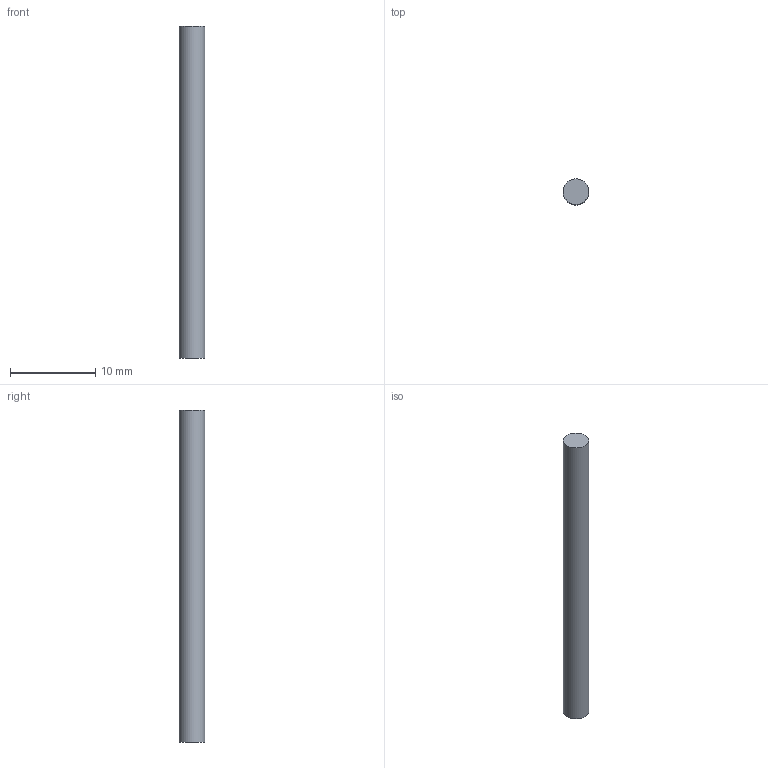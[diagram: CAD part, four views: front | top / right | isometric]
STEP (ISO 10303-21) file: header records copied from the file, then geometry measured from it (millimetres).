
FILE_DESCRIPTION(('FreeCAD Model'),'2;1');
FILE_NAME('Open CASCADE Shape Model','2026-10-30T14:44:59',('FreeCAD'),( 'FreeCAD'),'Open CASCADE STEP processor 7.8','FreeCAD','Unknown');
FILE_SCHEMA(('AUTOMOTIVE_DESIGN { 1 0 10303 214 1 1 1 1 }'));
Length unit declared in the file: millimetre
Products named in the file (1): Open CASCADE STEP translator 7.8 8
Bounding box: 3 x 3 x 38.85 mm (x, y, z)
Volume: 274.6 mm3; surface area: 380.3 mm2
Topology: 1 solids, 1 shells, 3 faces, 3 edges, 2 vertices
Faces by surface type: plane 2, cylinder 1
Full cylindrical faces by diameter (mm): 3 x1
Entity records: 69 total; most frequent: DIRECTION 13, CARTESIAN_POINT 9, AXIS2_PLACEMENT_3D 6, ORIENTED_EDGE 6, ADVANCED_FACE 3, FACE_BOUND 3, EDGE_LOOP 3, EDGE_CURVE 3
